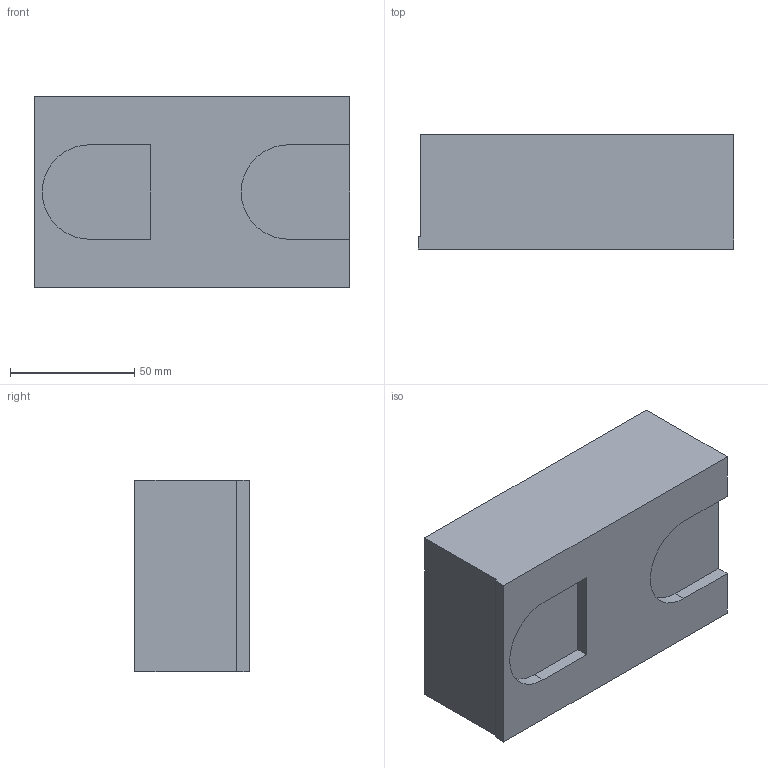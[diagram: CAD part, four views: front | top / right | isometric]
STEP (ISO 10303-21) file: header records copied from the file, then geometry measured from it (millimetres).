
FILE_DESCRIPTION (( 'STEP AP214' ), '1' );
FILE_NAME ('44259-46.STEP', '2020-03-27T14:00:43', ( '' ), ( '' ), 'SwSTEP 2.0', 'SolidWorks 2019', '' );
FILE_SCHEMA (( 'AUTOMOTIVE_DESIGN' ));
Length unit declared in the file: millimetre
Products named in the file (1): 44259-46
Bounding box: 127 x 46 x 77 mm (x, y, z)
Volume: 431620.4 mm3; surface area: 39334.9 mm2
Topology: 1 solids, 1 shells, 17 faces, 42 edges, 28 vertices
Faces by surface type: plane 15, cylinder 2
Entity records: 721 total; most frequent: CARTESIAN_POINT 88, ORIENTED_EDGE 84, DIRECTION 82, EDGE_CURVE 42, VECTOR 38, LINE 38, VERTEX_POINT 28, AXIS2_PLACEMENT_3D 22
